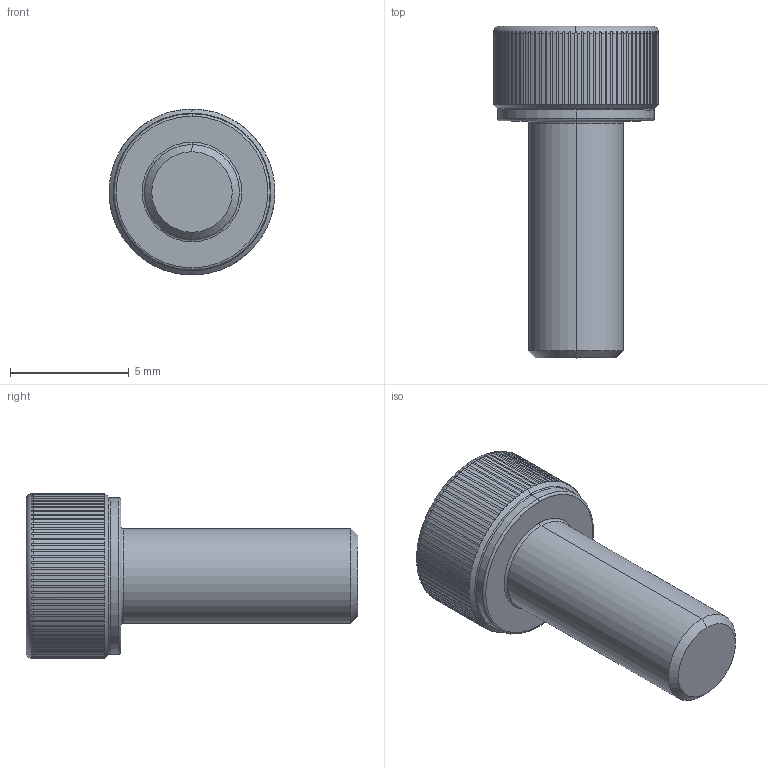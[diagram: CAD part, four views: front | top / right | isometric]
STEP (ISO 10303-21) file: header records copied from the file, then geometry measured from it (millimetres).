
FILE_DESCRIPTION (( 'STEP AP203' ), '1' );
FILE_NAME ('LGDT-304-M4x10.STEP', '2026-08-10T01:30:27', ( '' ), ( '' ), 'SwSTEP 2.0', 'SolidWorks 2020', '' );
FILE_SCHEMA (( 'CONFIG_CONTROL_DESIGN' ));
Length unit declared in the file: millimetre
Products named in the file (1): LGDT-304-M4x10
Bounding box: 7 x 14 x 7 mm (x, y, z)
Volume: 256.4 mm3; surface area: 306.8 mm2
Topology: 1 solids, 1 shells, 216 faces, 612 edges, 400 vertices
Faces by surface type: cylinder 187, cone 11, plane 10, torus 8
Entity records: 10634 total; most frequent: CARTESIAN_POINT 5163, ORIENTED_EDGE 1224, DIRECTION 1048, EDGE_CURVE 612, AXIS2_PLACEMENT_3D 422, VERTEX_POINT 400, EDGE_LOOP 218, FACE_OUTER_BOUND 216
